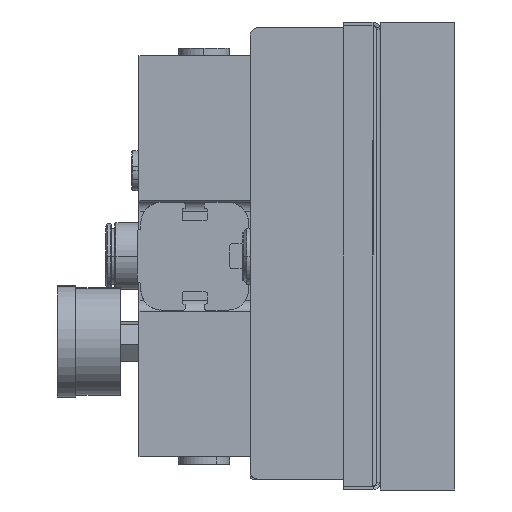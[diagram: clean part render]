
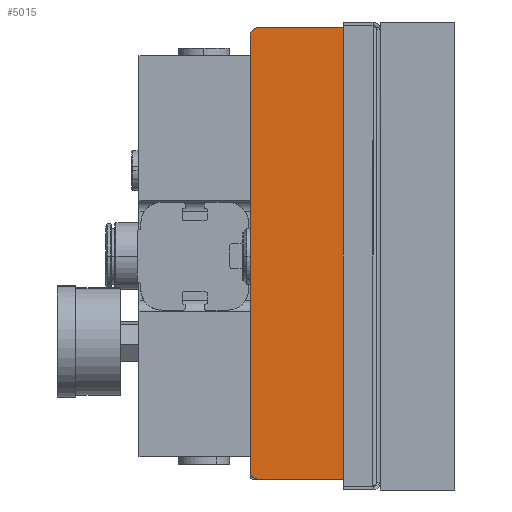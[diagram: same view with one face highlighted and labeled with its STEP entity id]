
A CAD part, left-side view. The second image highlights one B-rep face of the part: STEP entity #5015.
In plain terms, the highlighted planar face has unit normal (-1, 0, 0).
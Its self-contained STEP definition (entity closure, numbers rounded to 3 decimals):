
#276 = ORIENTED_EDGE ( 'NONE', *, *, #23453, .T. ) ;
#279 = ORIENTED_EDGE ( 'NONE', *, *, #23531, .T. ) ;
#492 = ORIENTED_EDGE ( 'NONE', *, *, #23492, .T. ) ;
#504 = ORIENTED_EDGE ( 'NONE', *, *, #23521, .T. ) ;
#505 = ORIENTED_EDGE ( 'NONE', *, *, #23306, .T. ) ;
#509 = ORIENTED_EDGE ( 'NONE', *, *, #23539, .T. ) ;
#513 = ORIENTED_EDGE ( 'NONE', *, *, #23537, .T. ) ;
#595 = ORIENTED_EDGE ( 'NONE', *, *, #23547, .T. ) ;
#5015 = ADVANCED_FACE ( 'NONE', ( #11343 ), #17511, .F. ) ;
#6295 = LINE ( 'NONE', #10062, #6307 ) ;
#6307 = VECTOR ( 'NONE', #10071, 1000. ) ;
#6476 = LINE ( 'NONE', #10346, #6478 ) ;
#6478 = VECTOR ( 'NONE', #10347, 1000. ) ;
#6506 = LINE ( 'NONE', #10403, #6509 ) ;
#6509 = VECTOR ( 'NONE', #10404, 1000. ) ;
#6545 = LINE ( 'NONE', #10441, #6547 ) ;
#6547 = VECTOR ( 'NONE', #10442, 1000. ) ;
#6548 = CIRCLE ( 'NONE', #20441, 2. ) ;
#6560 = CIRCLE ( 'NONE', #20254, 2. ) ;
#6562 = CIRCLE ( 'NONE', #20359, 2. ) ;
#6567 = CIRCLE ( 'NONE', #20940, 2. ) ;
#8830 = CARTESIAN_POINT ( 'NONE',  ( -299.453, 15., -58. ) ) ;
#8904 = CARTESIAN_POINT ( 'NONE',  ( -299.453, -13., -60. ) ) ;
#9165 = CARTESIAN_POINT ( 'NONE',  ( -299.453, -13., 61.5 ) ) ;
#9281 = CARTESIAN_POINT ( 'NONE',  ( -299.453, -15., -58. ) ) ;
#9282 = CARTESIAN_POINT ( 'NONE',  ( -299.453, 15., 59.5 ) ) ;
#9314 = CARTESIAN_POINT ( 'NONE',  ( -299.453, -15., 59.5 ) ) ;
#10062 = CARTESIAN_POINT ( 'NONE',  ( -299.453, -15., -60. ) ) ;
#10071 = DIRECTION ( 'NONE',  ( 0., -1., 0. ) ) ;
#10346 = CARTESIAN_POINT ( 'NONE',  ( -299.453, -15., 61.5 ) ) ;
#10347 = DIRECTION ( 'NONE',  ( 0., 1., 0. ) ) ;
#10403 = CARTESIAN_POINT ( 'NONE',  ( -299.453, -15., -60. ) ) ;
#10404 = DIRECTION ( 'NONE',  ( 0., 0., 1. ) ) ;
#10441 = CARTESIAN_POINT ( 'NONE',  ( -299.453, 15., -60. ) ) ;
#10442 = DIRECTION ( 'NONE',  ( 0., 0., -1. ) ) ;
#10466 = CARTESIAN_POINT ( 'NONE',  ( -299.453, 13., 59.5 ) ) ;
#10467 = DIRECTION ( 'NONE',  ( -1., 0., 0. ) ) ;
#10468 = DIRECTION ( 'NONE',  ( 0., 0., -1. ) ) ;
#10471 = CARTESIAN_POINT ( 'NONE',  ( -299.453, -13., -58. ) ) ;
#10472 = DIRECTION ( 'NONE',  ( -1., 0., 0. ) ) ;
#10473 = DIRECTION ( 'NONE',  ( 0., 0., -1. ) ) ;
#10476 = CARTESIAN_POINT ( 'NONE',  ( -299.453, 13., -58. ) ) ;
#10477 = DIRECTION ( 'NONE',  ( -1., 0., 0. ) ) ;
#10478 = DIRECTION ( 'NONE',  ( 0., 0., -1. ) ) ;
#10489 = CARTESIAN_POINT ( 'NONE',  ( -299.453, -13., 59.5 ) ) ;
#10490 = DIRECTION ( 'NONE',  ( -1., 0., 0. ) ) ;
#10491 = DIRECTION ( 'NONE',  ( 0., 0., -1. ) ) ;
#11343 = FACE_OUTER_BOUND ( 'NONE', #15794, .T. ) ;
#12035 = AXIS2_PLACEMENT_3D ( 'NONE', #17774, #17505, #18221 ) ;
#12534 = VERTEX_POINT ( 'NONE', #8830 ) ;
#12713 = VERTEX_POINT ( 'NONE', #8904 ) ;
#13085 = VERTEX_POINT ( 'NONE', #9165 ) ;
#13206 = VERTEX_POINT ( 'NONE', #9281 ) ;
#13207 = VERTEX_POINT ( 'NONE', #9282 ) ;
#13243 = VERTEX_POINT ( 'NONE', #9314 ) ;
#15794 = EDGE_LOOP ( 'NONE', ( #276, #279, #504, #509, #505, #513, #492, #595 ) ) ;
#17505 = DIRECTION ( 'NONE',  ( 1., 0., 0. ) ) ;
#17511 = PLANE ( 'NONE',  #12035 ) ;
#17774 = CARTESIAN_POINT ( 'NONE',  ( -299.453, 15., -60. ) ) ;
#18221 = DIRECTION ( 'NONE',  ( 0., 0., -1. ) ) ;
#20254 = AXIS2_PLACEMENT_3D ( 'NONE', #10471, #10472, #10473 ) ;
#20359 = AXIS2_PLACEMENT_3D ( 'NONE', #10476, #10477, #10478 ) ;
#20441 = AXIS2_PLACEMENT_3D ( 'NONE', #10466, #10467, #10468 ) ;
#20940 = AXIS2_PLACEMENT_3D ( 'NONE', #10489, #10490, #10491 ) ;
#21663 = CARTESIAN_POINT ( 'NONE',  ( -299.453, 13., 61.5 ) ) ;
#22059 = CARTESIAN_POINT ( 'NONE',  ( -299.453, 13., -60. ) ) ;
#23306 = EDGE_CURVE ( 'NONE', #25469, #12713, #6295, .T. ) ;
#23453 = EDGE_CURVE ( 'NONE', #13085, #24964, #6476, .T. ) ;
#23492 = EDGE_CURVE ( 'NONE', #13206, #13243, #6506, .T. ) ;
#23521 = EDGE_CURVE ( 'NONE', #13207, #12534, #6545, .T. ) ;
#23531 = EDGE_CURVE ( 'NONE', #24964, #13207, #6548, .T. ) ;
#23537 = EDGE_CURVE ( 'NONE', #12713, #13206, #6560, .T. ) ;
#23539 = EDGE_CURVE ( 'NONE', #12534, #25469, #6562, .T. ) ;
#23547 = EDGE_CURVE ( 'NONE', #13243, #13085, #6567, .T. ) ;
#24964 = VERTEX_POINT ( 'NONE', #21663 ) ;
#25469 = VERTEX_POINT ( 'NONE', #22059 ) ;
